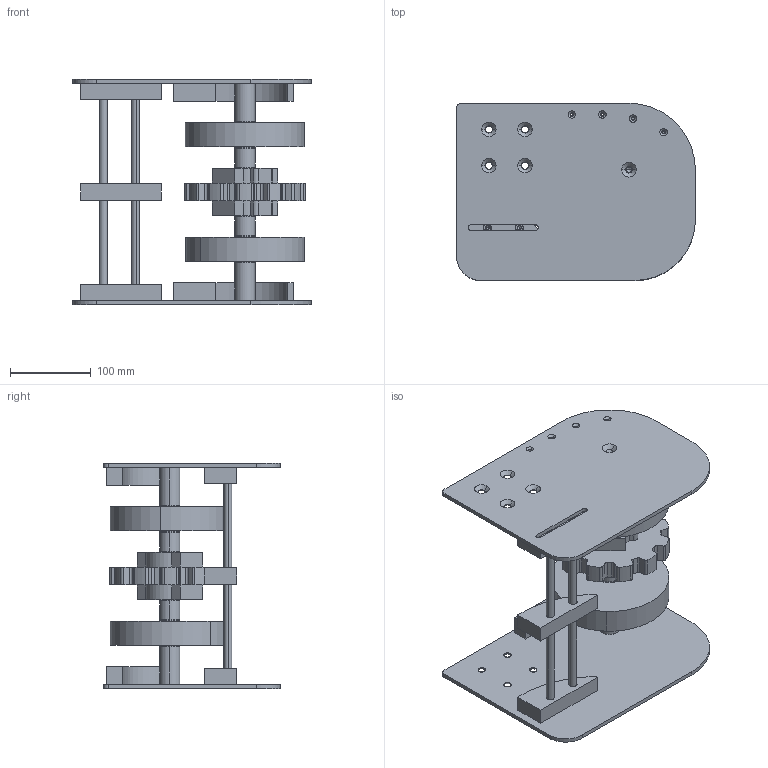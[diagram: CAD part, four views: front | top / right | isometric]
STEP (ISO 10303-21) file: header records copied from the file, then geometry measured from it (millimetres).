
FILE_DESCRIPTION (( 'STEP AP203' ), '1' );
FILE_NAME ('2000.1000.200.STEP', '2015-04-02T08:54:30', ( '' ), ( '' ), 'SwSTEP 2.0', 'SolidWorks 2012', '' );
FILE_SCHEMA (( 'CONFIG_CONTROL_DESIGN' ));
Length unit declared in the file: millimetre
Products named in the file (9): 2000.001.210; 2000.1000.104; 2000.001.211; 2000.001.016; 2000.1000.201-1; 2000.001.015-1; RUOTE DI TRAINO NS882_NS882T12R25; 2000.1000.200; 2000.001.014-1
Assembly tree (13 placements, depth 2):
  2000.1000.200
    2000.001.014-1  x2
    2000.1000.201-1
    2000.1000.104  x2
    2000.001.210
    2000.001.211
    2000.001.016  x2
    2000.001.015-1  x3
    RUOTE DI TRAINO NS882_NS882T12R25
Bounding box: 296.5 x 220 x 280 mm (x, y, z)
Volume: 2545949.7 mm3; surface area: 525156.7 mm2
Topology: 13 solids, 13 shells, 430 faces, 1082 edges, 686 vertices
Faces by surface type: cylinder 217, plane 125, cone 64, torus 24
Entity records: 12373 total; most frequent: DIRECTION 2154, CARTESIAN_POINT 1902, ORIENTED_EDGE 1852, EDGE_CURVE 926, AXIS2_PLACEMENT_3D 844, VERTEX_POINT 592, VECTOR 466, LINE 466
